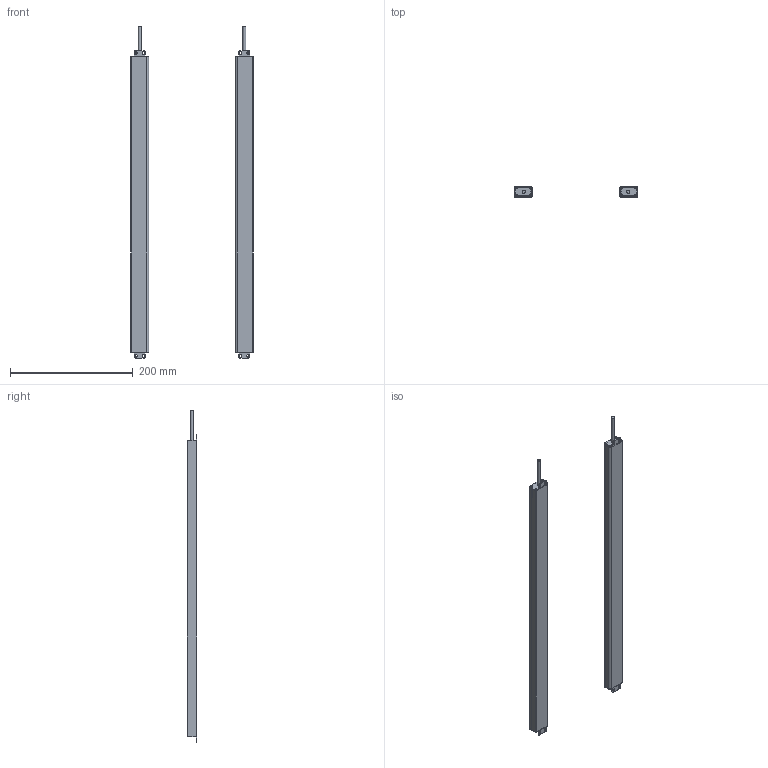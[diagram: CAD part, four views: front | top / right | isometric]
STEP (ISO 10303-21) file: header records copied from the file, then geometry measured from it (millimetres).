
FILE_DESCRIPTION(/* description */ (''),/* implementation_level */ '2;1');
FILE_NAME(/* name */ '2420（16X30ZW).stp',/* time_stamp */ '2020-07-14T19:11:41+08:00',/* author */ (''),/* organization */ (''),/* preprocessor_version */ 'ST-DEVELOPER v16',/* originating_system */ 'SIEMENS PLM Software NX 10.0',/* authorisation */ '');
FILE_SCHEMA (('AP203_CONFIGURATION_CONTROLLED_3D_DESIGN_OF_MECHANICAL_PARTS_AND_ASSEMBLIES_MIM_LF { 1 0 10303 403 2 1 2}'));
Length unit declared in the file: millimetre
Products named in the file (1): Admi58A03253m7g7
Bounding box: 200 x 16 x 541.5 mm (x, y, z)
Volume: 140190.7 mm3; surface area: 207350.7 mm2
Topology: 10 solids, 10 shells, 296 faces, 830 edges, 554 vertices
Faces by surface type: plane 160, cylinder 136
Full cylindrical faces by diameter (mm): 5 x2
Entity records: 9760 total; most frequent: DIRECTION 1692, CARTESIAN_POINT 1675, ORIENTED_EDGE 1652, EDGE_CURVE 826, AXIS2_PLACEMENT_3D 569, LINE 554, VECTOR 554, VERTEX_POINT 552
